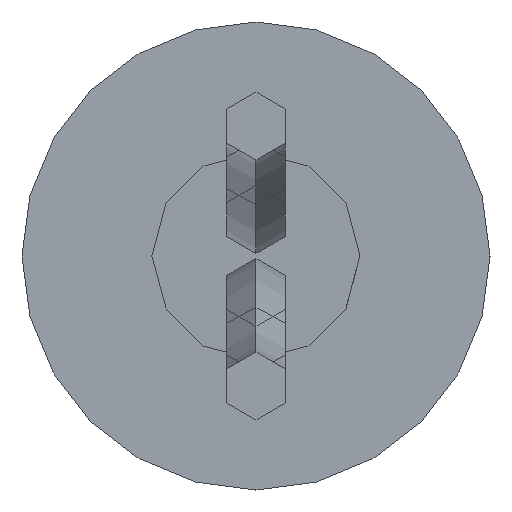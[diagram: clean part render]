
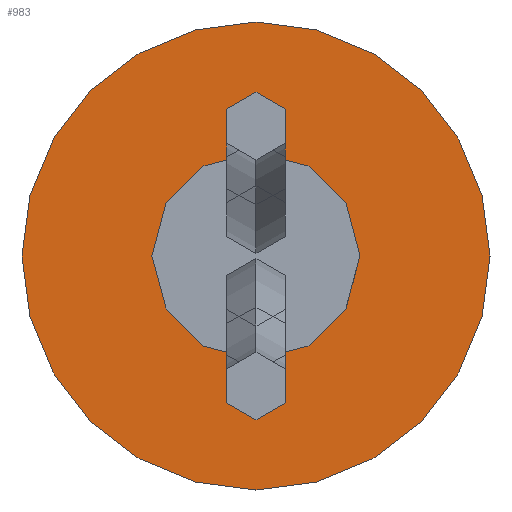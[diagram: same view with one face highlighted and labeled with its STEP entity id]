
A CAD part, left-side view. The second image highlights one B-rep face of the part: STEP entity #983.
In plain terms, the highlighted planar face has unit normal (-1, 0, 0).
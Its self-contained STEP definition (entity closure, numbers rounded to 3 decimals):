
#42 = CIRCLE ( 'NONE', #449, 2. ) ;
#54 = EDGE_LOOP ( 'NONE', ( #90, #171 ) ) ;
#62 = CARTESIAN_POINT ( 'NONE',  ( 0., 4.5, 0. ) ) ;
#74 = AXIS2_PLACEMENT_3D ( 'NONE', #760, #258, #845 ) ;
#90 = ORIENTED_EDGE ( 'NONE', *, *, #160, .F. ) ;
#135 = EDGE_CURVE ( 'NONE', #1091, #533, #42, .T. ) ;
#144 = DIRECTION ( 'NONE',  ( 0., 0., -1. ) ) ;
#150 = CIRCLE ( 'NONE', #899, 2. ) ;
#160 = EDGE_CURVE ( 'NONE', #533, #1091, #150, .T. ) ;
#163 = EDGE_LOOP ( 'NONE', ( #680, #346 ) ) ;
#171 = ORIENTED_EDGE ( 'NONE', *, *, #135, .F. ) ;
#173 = CARTESIAN_POINT ( 'NONE',  ( 0., 0., 0. ) ) ;
#183 = FACE_BOUND ( 'NONE', #54, .T. ) ;
#246 = AXIS2_PLACEMENT_3D ( 'NONE', #173, #765, #263 ) ;
#258 = DIRECTION ( 'NONE',  ( -1., 0., 0. ) ) ;
#263 = DIRECTION ( 'NONE',  ( 0., 0., 1. ) ) ;
#315 = CARTESIAN_POINT ( 'NONE',  ( 0., 0., 4.5 ) ) ;
#346 = ORIENTED_EDGE ( 'NONE', *, *, #682, .T. ) ;
#391 = DIRECTION ( 'NONE',  ( -1., 0., 0. ) ) ;
#449 = AXIS2_PLACEMENT_3D ( 'NONE', #496, #1098, #750 ) ;
#475 = PLANE ( 'NONE',  #1041 ) ;
#496 = CARTESIAN_POINT ( 'NONE',  ( 0., 0., 0. ) ) ;
#533 = VERTEX_POINT ( 'NONE', #591 ) ;
#591 = CARTESIAN_POINT ( 'NONE',  ( 0., 0., -2. ) ) ;
#632 = FACE_OUTER_BOUND ( 'NONE', #163, .T. ) ;
#640 = EDGE_CURVE ( 'NONE', #996, #992, #1060, .T. ) ;
#643 = DIRECTION ( 'NONE',  ( 1., 0., 0. ) ) ;
#680 = ORIENTED_EDGE ( 'NONE', *, *, #640, .T. ) ;
#682 = EDGE_CURVE ( 'NONE', #992, #996, #822, .T. ) ;
#750 = DIRECTION ( 'NONE',  ( 0., 0., 1. ) ) ;
#760 = CARTESIAN_POINT ( 'NONE',  ( 0., 0., 0. ) ) ;
#765 = DIRECTION ( 'NONE',  ( -1., 0., 0. ) ) ;
#818 = CARTESIAN_POINT ( 'NONE',  ( 0., 0., 2. ) ) ;
#822 = CIRCLE ( 'NONE', #246, 4.5 ) ;
#845 = DIRECTION ( 'NONE',  ( 0., 0., 1. ) ) ;
#899 = AXIS2_PLACEMENT_3D ( 'NONE', #910, #391, #994 ) ;
#907 = CARTESIAN_POINT ( 'NONE',  ( 0., 0., -4.5 ) ) ;
#910 = CARTESIAN_POINT ( 'NONE',  ( 0., 0., 0. ) ) ;
#983 = ADVANCED_FACE ( 'NONE', ( #632, #183 ), #475, .F. ) ;
#992 = VERTEX_POINT ( 'NONE', #907 ) ;
#994 = DIRECTION ( 'NONE',  ( 0., 0., 1. ) ) ;
#996 = VERTEX_POINT ( 'NONE', #315 ) ;
#1041 = AXIS2_PLACEMENT_3D ( 'NONE', #62, #643, #144 ) ;
#1060 = CIRCLE ( 'NONE', #74, 4.5 ) ;
#1091 = VERTEX_POINT ( 'NONE', #818 ) ;
#1098 = DIRECTION ( 'NONE',  ( -1., 0., 0. ) ) ;
